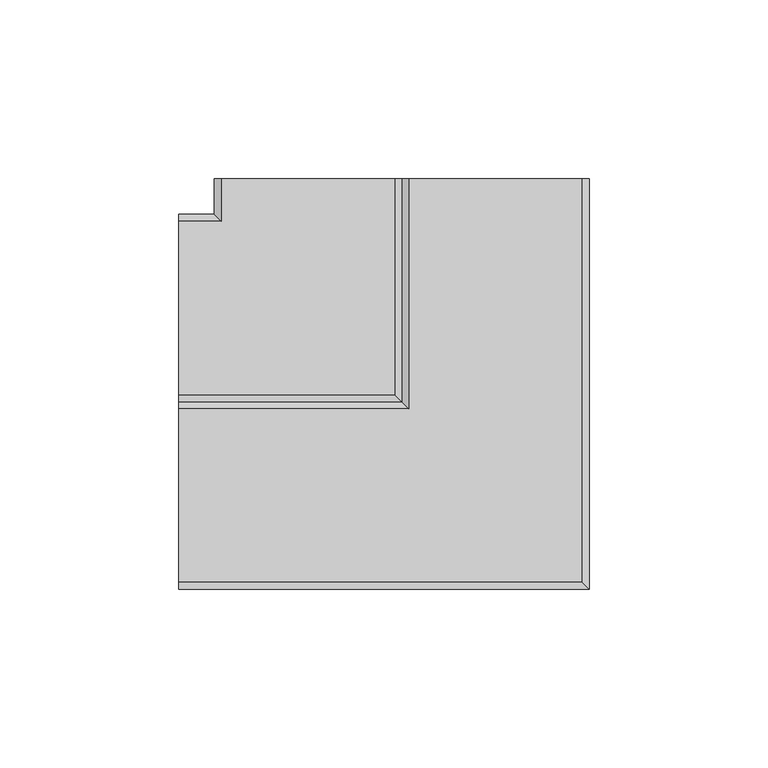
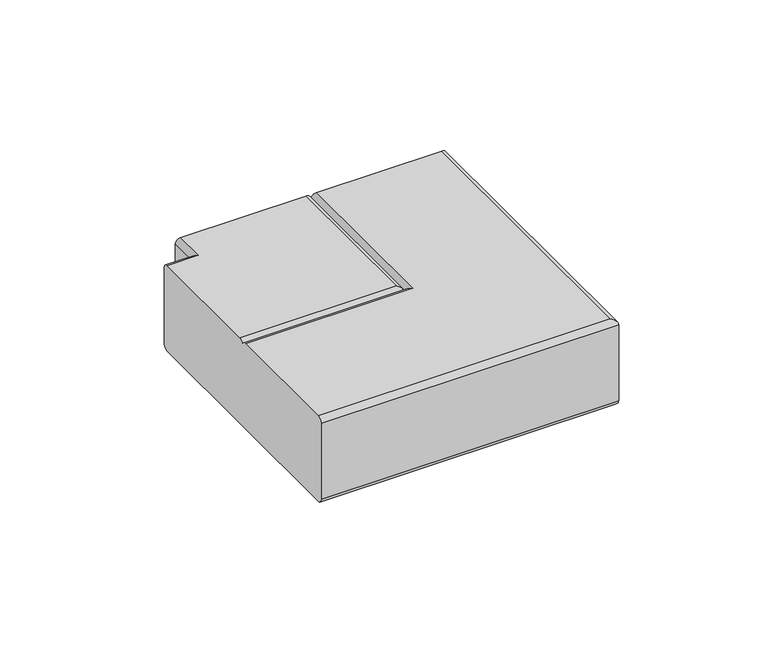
"""IFC4 building model written with IfcOpenShell, lengths in millimetres: duct fitting geometry, Угол плоский 90° - для кабель-каналов DLP - белый : 65х220мм."""

from ifc_helpers import new_model, si_unit, frame, origin, place, context, project, spatial, circle_curve, ellipse_curve, source, transform, mapped, element, save
from ifc_brep_helpers import plane_surface, cylinder_surface, advanced_brep


def duct_fitting_b115d703(model_context):
    return source(origin(), model_context, "Body", "AdvancedBrep", [
        advanced_brep(
        [(-2.0, 62.5, 14.5407457), (0.0, 62.5, 12.5407457), (2.0, 62.5, 14.5407457), (50.5, 62.5, 14.5407457), (52.5, 62.5, 12.5407457), (52.5, 62.5, -18.4592543), (50.5, 62.5, -20.4592543), (-50.5, 62.5, -20.4592543), (-52.5, 62.5, -18.4592543), (-52.5, 62.5, 12.5407457), (-50.5, 62.5, 14.5407457), (50.5, -50.5, 14.5407457), (52.5, -52.5, 12.5407457), (52.5, -52.5, -18.4592543), (50.5, -50.5, -20.4592543), (-62.5, -50.5, -20.4592543), (-62.5, 50.5, -20.4592543), (-50.5, 50.5, -20.4592543), (-52.5, 52.5, -18.4592543), (-52.5, 52.5, 12.5407457), (-50.5, 50.5, 14.5407457), (-62.5, 50.5, 14.5407457), (-62.5, 2.0, 14.5407457), (-2.0, 2.0, 14.5407457), (-62.5, 52.5, 12.5407457), (-62.5, 52.5, -18.4592543), (-62.5, -52.5, -18.4592543), (-62.5, -52.5, 12.5407457), (-62.5, -50.5, 14.5407457), (-62.5, -2.0, 14.5407457), (-62.5, 0.0, 12.5407457), (0.0, 0.0, 12.5407457), (2.0, -2.0, 14.5407457)],
        [
            (0, 1, circle_curve(frame((-2.0, 62.5, 12.5407457), z_axis=(0.0, 1.0, 0.0), x_axis=(1.0, 0.0, 0.0)), 2.0)),
            (1, 2, circle_curve(frame((2.0, 62.5, 12.5407457), z_axis=(0.0, 1.0, 0.0), x_axis=(1.0, 0.0, 0.0)), 2.0)),
            (2, 3),
            (3, 4, circle_curve(frame((50.5, 62.5, 12.5407457), z_axis=(0.0, 1.0, 0.0), x_axis=(1.0, 0.0, 0.0)), 2.0)),
            (4, 5),
            (5, 6, circle_curve(frame((50.5, 62.5, -18.4592543), z_axis=(0.0, 1.0, 0.0), x_axis=(1.0, 0.0, 0.0)), 2.0)),
            (6, 7),
            (7, 8, circle_curve(frame((-50.5, 62.5, -18.4592543), z_axis=(0.0, 1.0, 0.0), x_axis=(1.0, 0.0, 0.0)), 2.0)),
            (8, 9),
            (9, 10, circle_curve(frame((-50.5, 62.5, 12.5407457), z_axis=(0.0, 1.0, 0.0), x_axis=(1.0, 0.0, 0.0)), 2.0)),
            (10, 0),
            (3, 11),
            (11, 12, ellipse_curve(frame((50.5, -50.5, 12.5407457), z_axis=(0.7071067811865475, 0.7071067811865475, 0.0), x_axis=(-0.7071067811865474, 0.7071067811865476, 0.0)), 2.8284271, 2.0)),
            (12, 4),
            (12, 13),
            (13, 5),
            (13, 14, ellipse_curve(frame((50.5, -50.5, -18.4592543), z_axis=(0.7071067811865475, 0.7071067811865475, 0.0), x_axis=(-0.7071067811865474, 0.7071067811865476, 0.0)), 2.8284271, 2.0)),
            (14, 6),
            (14, 15),
            (15, 16),
            (16, 17),
            (17, 7),
            (17, 18, ellipse_curve(frame((-50.5, 50.5, -18.4592543), z_axis=(0.7071067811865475, 0.7071067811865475, 0.0), x_axis=(-0.7071067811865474, 0.7071067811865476, 0.0)), 2.8284271, 2.0)),
            (18, 8),
            (18, 19),
            (19, 9),
            (19, 20, ellipse_curve(frame((-50.5, 50.5, 12.5407457), z_axis=(0.7071067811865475, 0.7071067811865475, 0.0), x_axis=(-0.7071067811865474, 0.7071067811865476, 0.0)), 2.8284271, 2.0)),
            (20, 10),
            (20, 21),
            (21, 22),
            (22, 23),
            (23, 0),
            (21, 24, circle_curve(frame((-62.5, 50.5, 12.5407457), z_axis=(-1.0, 0.0, 0.0), x_axis=(0.0, -1.0, 0.0)), 2.0)),
            (24, 25),
            (25, 16, circle_curve(frame((-62.5, 50.5, -18.4592543), z_axis=(-1.0, 0.0, 0.0), x_axis=(0.0, -1.0, 0.0)), 2.0)),
            (15, 26, circle_curve(frame((-62.5, -50.5, -18.4592543), z_axis=(-1.0, 0.0, 0.0), x_axis=(0.0, -1.0, 0.0)), 2.0)),
            (26, 27),
            (27, 28, circle_curve(frame((-62.5, -50.5, 12.5407457), z_axis=(-1.0, 0.0, 0.0), x_axis=(0.0, -1.0, 0.0)), 2.0)),
            (28, 29),
            (29, 30, circle_curve(frame((-62.5, -2.0, 12.5407457), z_axis=(-1.0, 0.0, 0.0), x_axis=(0.0, -1.0, 0.0)), 2.0)),
            (30, 22, circle_curve(frame((-62.5, 2.0, 12.5407457), z_axis=(-1.0, 0.0, 0.0), x_axis=(0.0, -1.0, 0.0)), 2.0)),
            (11, 28),
            (27, 12),
            (26, 13),
            (25, 18),
            (24, 19),
            (23, 31, ellipse_curve(frame((-2.0, 2.0, 12.5407457), z_axis=(0.7071067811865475, 0.7071067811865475, 0.0), x_axis=(-0.7071067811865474, 0.7071067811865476, 0.0)), 2.8284271, 2.0)),
            (31, 1),
            (31, 32, ellipse_curve(frame((2.0, -2.0, 12.5407457), z_axis=(0.7071067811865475, 0.7071067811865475, 0.0), x_axis=(-0.7071067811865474, 0.7071067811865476, 0.0)), 2.8284271, 2.0)),
            (32, 2),
            (32, 29),
            (30, 31),
        ],
        [
            plane_surface(frame((0.0, 62.5, -2.9592543), z_axis=(0.0, 1.0, 0.0), x_axis=(0.0, 0.0, 1.0))),
            cylinder_surface(frame((50.5, 62.5, 12.5407457), z_axis=(0.0, 1.0, 0.0), x_axis=(1.0, 0.0, 0.0)), 2.0),
            plane_surface(frame((52.5, 62.5, 12.5407457), z_axis=(1.0, 0.0, 0.0), x_axis=(0.0, -1.0, 0.0))),
            cylinder_surface(frame((50.5, 62.5, -18.4592543), z_axis=(0.0, 1.0, 0.0), x_axis=(1.0, 0.0, 0.0)), 2.0),
            plane_surface(frame((50.5, 62.5, -20.4592543), z_axis=(0.0, 0.0, -1.0), x_axis=(0.0, -1.0, 0.0))),
            cylinder_surface(frame((-50.5, 62.5, -18.4592543), z_axis=(0.0, 1.0, 0.0), x_axis=(1.0, 0.0, 0.0)), 2.0),
            plane_surface(frame((-52.5, 62.5, -18.4592543), z_axis=(-1.0, 0.0, 0.0), x_axis=(0.0, -1.0, 0.0))),
            cylinder_surface(frame((-50.5, 62.5, 12.5407457), z_axis=(0.0, 1.0, 0.0), x_axis=(1.0, 0.0, 0.0)), 2.0),
            plane_surface(frame((-50.5, 62.5, 14.5407457), z_axis=(0.0, 0.0, 1.0), x_axis=(0.0, -1.0, 0.0))),
            plane_surface(frame((-62.5, 0.0, -2.9592543), z_axis=(-1.0, 0.0, 0.0), x_axis=(0.0, 0.0, 1.0))),
            cylinder_surface(frame((0.0, -50.5, 12.5407457), z_axis=(1.0, 0.0, 0.0), x_axis=(0.0, -1.0, 0.0)), 2.0),
            plane_surface(frame((52.5, -52.5, 12.5407457), z_axis=(0.0, -1.0, 0.0), x_axis=(-1.0, 0.0, 0.0))),
            cylinder_surface(frame((0.0, -50.5, -18.4592543), z_axis=(1.0, 0.0, 0.0), x_axis=(0.0, -1.0, 0.0)), 2.0),
            cylinder_surface(frame((0.0, 50.5, -18.4592543), z_axis=(1.0, 0.0, 0.0), x_axis=(0.0, -1.0, 0.0)), 2.0),
            plane_surface(frame((-52.5, 52.5, -18.4592543), z_axis=(0.0, 1.0, 0.0), x_axis=(-1.0, 0.0, 0.0))),
            cylinder_surface(frame((0.0, 50.5, 12.5407457), z_axis=(1.0, 0.0, 0.0), x_axis=(0.0, -1.0, 0.0)), 2.0),
            cylinder_surface(frame((-2.0, 62.5, 12.5407457), z_axis=(0.0, 1.0, 0.0), x_axis=(1.0, 0.0, 0.0)), 2.0),
            cylinder_surface(frame((2.0, 62.5, 12.5407457), z_axis=(0.0, 1.0, 0.0), x_axis=(1.0, 0.0, 0.0)), 2.0),
            plane_surface(frame((2.0, 62.5, 14.5407457), z_axis=(0.0, 0.0, 1.0), x_axis=(0.0, -1.0, 0.0))),
            cylinder_surface(frame((0.0, 2.0, 12.5407457), z_axis=(1.0, 0.0, 0.0), x_axis=(0.0, -1.0, 0.0)), 2.0),
            cylinder_surface(frame((0.0, -2.0, 12.5407457), z_axis=(1.0, 0.0, 0.0), x_axis=(0.0, -1.0, 0.0)), 2.0),
        ],
        [
            (0, [[1, 2, 3, 4, 5, 6, 7, 8, 9, 10, 11]]),
            (1, [[-4, 12, 13, 14]]),
            (2, [[-5, -14, 15, 16]]),
            (3, [[-6, -16, 17, 18]]),
            (4, [[-7, -18, 19, 20, 21, 22]]),
            (5, [[-8, -22, 23, 24]]),
            (6, [[-9, -24, 25, 26]]),
            (7, [[-10, -26, 27, 28]]),
            (8, [[-11, -28, 29, 30, 31, 32]]),
            (9, [[-30, 33, 34, 35, -20, 36, 37, 38, 39, 40, 41]]),
            (10, [[-13, 42, -38, 43]]),
            (11, [[-15, -43, -37, 44]]),
            (12, [[-17, -44, -36, -19]]),
            (13, [[-23, -21, -35, 45]]),
            (14, [[-25, -45, -34, 46]]),
            (15, [[-27, -46, -33, -29]]),
            (16, [[-1, -32, 47, 48]]),
            (17, [[-2, -48, 49, 50]]),
            (18, [[-3, -50, 51, -39, -42, -12]]),
            (19, [[-47, -31, -41, 52]]),
            (20, [[-49, -52, -40, -51]]),
        ],
    ),
    ])


if __name__ == "__main__":
    model = new_model("IFC4")
    model_context = context("Model", 3, world=origin())
    ifc_project = project(units=[si_unit("LENGTHUNIT", "METRE", prefix="MILLI")], contexts=[model_context])
    site = spatial("IfcSite", under=ifc_project)
    building = spatial("IfcBuilding", under=site)
    placement = place(None, origin())
    duct_fitting_shape = duct_fitting_b115d703(model_context)
    element("IfcDuctFitting", 1, ObjectType="Угол плоский 90° - для кабель-каналов DLP - белый : 65х220мм", at=placement, inside=building, context=model_context, shape_type="MappedRepresentation", body=[
        mapped(duct_fitting_shape, transform((0.0, 0.0, 0.0), x_axis=(1.0, 0.0, 0.0), y_axis=(0.0, 1.0, 0.0), z_axis=(0.0, 0.0, 1.0))),
    ])
    save(model, "model.ifc")
